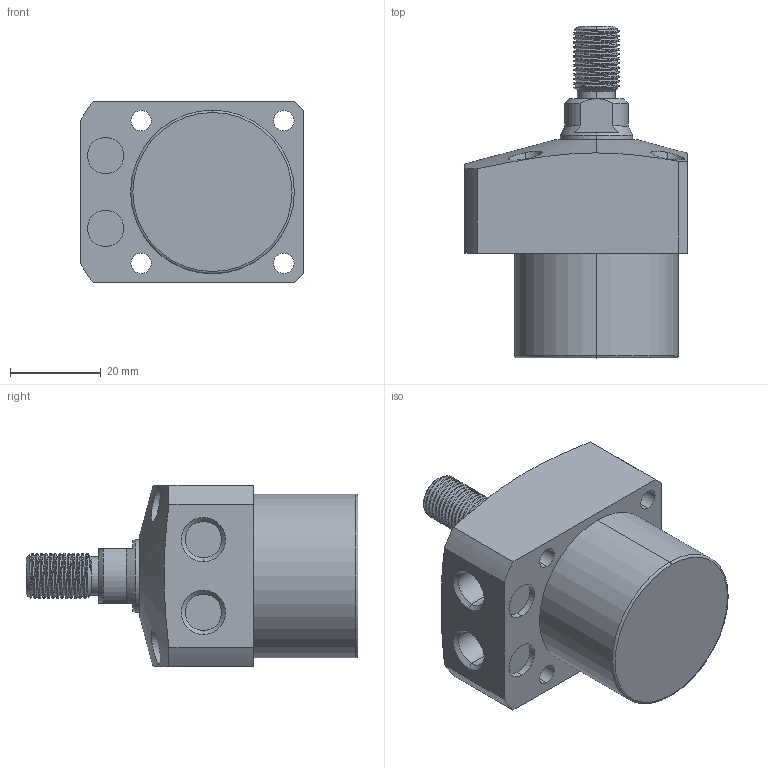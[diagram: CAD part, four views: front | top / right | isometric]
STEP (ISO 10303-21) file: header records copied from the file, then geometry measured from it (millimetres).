
FILE_DESCRIPTION (( 'STEP AP203' ), '1' );
FILE_NAME ('CLL-036CT-015.STEP', '2020-01-08T08:25:42', ( '' ), ( '' ), 'SwSTEP 2.0', 'SolidWorks 2015', '' );
FILE_SCHEMA (( 'CONFIG_CONTROL_DESIGN' ));
Length unit declared in the file: millimetre
Products named in the file (1): CLL-036CT-015
Bounding box: 49 x 73 x 40 mm (x, y, z)
Volume: 66305.6 mm3; surface area: 13271.4 mm2
Topology: 1 solids, 1 shells, 104 faces, 259 edges, 168 vertices
Faces by surface type: cylinder 61, plane 23, cone 16, torus 2, bspline 2
Entity records: 5040 total; most frequent: CARTESIAN_POINT 2621, ORIENTED_EDGE 518, DIRECTION 460, EDGE_CURVE 259, AXIS2_PLACEMENT_3D 185, VERTEX_POINT 168, EDGE_LOOP 123, FACE_OUTER_BOUND 104
